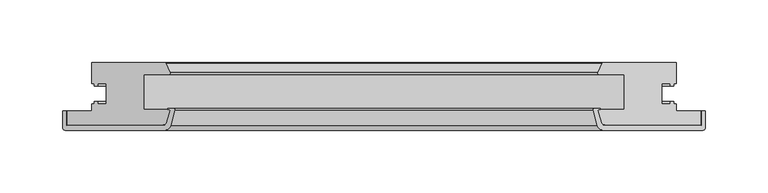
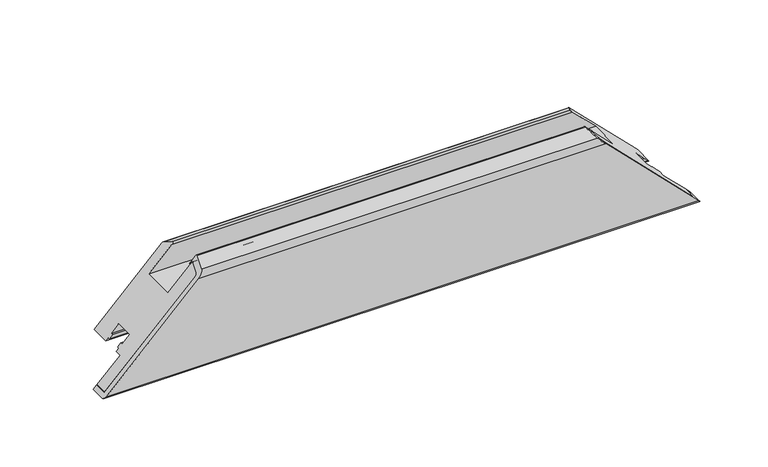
"""IFC4 building model written with IfcOpenShell, lengths in millimetres: proxy geometry, Weiku - Montante - Folha 02.2.01.018 : Weiku - Montante - Folha 02.2.01.018."""

from ifc_helpers import new_model, si_unit, frame, origin, place, context, project, spatial, polyline, ellipse_curve, source, transform, mapped, element, save
from ifc_brep_helpers import plane_surface, cylinder_surface, revolved_surface, advanced_brep


def generic_models_55713fe9(model_context):
    return source(origin(), model_context, "Body", "AdvancedBrep", [
        advanced_brep(
        [(253.0, -50.0, 0.0), (-253.0, -50.0, 0.0), (-175.9997332, -50.0, 77.0002668), (175.9997332, -50.0, 77.0002668), (-173.1019557, -47.7764571, 79.8980443), (173.1019557, -47.7764571, 79.8980443), (-170.5170371, -38.1294095, 82.4829629), (170.5170371, -38.1294095, 82.4829629), (-171.0, -37.5, 82.0), (171.0, -37.5, 82.0), (-171.8560102, -37.5, 81.1439898), (171.8560102, -37.5, 81.1439898), (-171.8560102, -36.5, 81.1439898), (171.8560102, -36.5, 81.1439898), (-167.2425588, -36.5, 85.7574412), (167.2425588, -36.5, 85.7574412), (-166.2766329, -37.758819, 86.7233671), (166.2766329, -37.758819, 86.7233671), (-169.6354501, -50.2940952, 83.3645499), (169.6354501, -50.2940952, 83.3645499), (-174.4650792, -54.0, 78.5349208), (174.4650792, -54.0, 78.5349208), (-254.0, -54.0, -1.0), (254.0, -54.0, -1.0), (-256.0, -52.0, -3.0), (256.0, -52.0, -3.0), (-256.0, -38.5, -3.0), (256.0, -38.5, -3.0), (-253.0, -38.5, 0.0), (253.0, -38.5, 0.0)],
        [
            (0, 1),
            (1, 2),
            (2, 3),
            (3, 0),
            (2, 4, ellipse_curve(frame((-175.9997332, -47.0, 77.0002668), z_axis=(-0.7071067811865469, 0.0, 0.7071067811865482), x_axis=(0.707106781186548, 0.0, 0.7071067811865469)), 4.2426407, 3.0)),
            (4, 5),
            (5, 3, ellipse_curve(frame((175.9997332, -47.0, 77.0002668), z_axis=(0.707106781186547, 0.0, 0.7071067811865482), x_axis=(0.7071067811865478, 0.0, -0.707106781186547)), 4.2426407, 3.0)),
            (4, 6),
            (6, 7),
            (7, 5),
            (6, 8, ellipse_curve(frame((-171.0, -38.0, 82.0), z_axis=(-0.7071067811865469, 0.0, 0.7071067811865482), x_axis=(0.707106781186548, 0.0, 0.7071067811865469)), 0.7071068, 0.5)),
            (8, 9),
            (9, 7, ellipse_curve(frame((171.0, -38.0, 82.0), z_axis=(0.707106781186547, 0.0, 0.7071067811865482), x_axis=(0.7071067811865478, 0.0, -0.707106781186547)), 0.7071068, 0.5)),
            (8, 10),
            (10, 11),
            (11, 9),
            (10, 12, ellipse_curve(frame((-171.8560102, -37.0, 81.1439898), z_axis=(0.7071067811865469, 0.0, -0.7071067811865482), x_axis=(-0.707106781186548, 0.0, -0.7071067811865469)), 0.7071068, 0.5)),
            (12, 13),
            (13, 11, ellipse_curve(frame((171.8560102, -37.0, 81.1439898), z_axis=(-0.707106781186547, 0.0, -0.7071067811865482), x_axis=(-0.7071067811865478, 0.0, 0.707106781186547)), 0.7071068, 0.5)),
            (12, 14),
            (14, 15),
            (15, 13),
            (14, 16, ellipse_curve(frame((-167.2425588, -37.5, 85.7574412), z_axis=(0.7071067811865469, 0.0, -0.7071067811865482), x_axis=(-0.707106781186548, 0.0, -0.7071067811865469)), 1.4142136, 1.0)),
            (16, 17),
            (17, 15, ellipse_curve(frame((167.2425588, -37.5, 85.7574412), z_axis=(-0.707106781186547, 0.0, -0.7071067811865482), x_axis=(-0.7071067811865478, 0.0, 0.707106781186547)), 1.4142136, 1.0)),
            (16, 18),
            (18, 19),
            (19, 17),
            (18, 20, ellipse_curve(frame((-174.4650792, -49.0, 78.5349208), z_axis=(0.7071067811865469, 0.0, -0.7071067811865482), x_axis=(-0.707106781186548, 0.0, -0.7071067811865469)), 7.0710678, 5.0)),
            (20, 21),
            (21, 19, ellipse_curve(frame((174.4650792, -49.0, 78.5349208), z_axis=(-0.707106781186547, 0.0, -0.7071067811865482), x_axis=(-0.7071067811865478, 0.0, 0.707106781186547)), 7.0710678, 5.0)),
            (20, 22),
            (22, 23),
            (23, 21),
            (22, 24, ellipse_curve(frame((-254.0, -52.0, -1.0), z_axis=(0.7071067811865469, 0.0, -0.7071067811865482), x_axis=(-0.707106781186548, 0.0, -0.7071067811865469)), 2.8284271, 2.0)),
            (24, 25),
            (25, 23, ellipse_curve(frame((254.0, -52.0, -1.0), z_axis=(-0.707106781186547, 0.0, -0.7071067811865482), x_axis=(-0.7071067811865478, 0.0, 0.707106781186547)), 2.8284271, 2.0)),
            (24, 26),
            (26, 27),
            (27, 25),
            (26, 28),
            (28, 29),
            (29, 27),
            (28, 1),
            (0, 29),
        ],
        [
            plane_surface(frame((-273.0, -50.0, 0.0), z_axis=(0.0, 1.0, 0.0), x_axis=(1.0, 0.0, 0.0))),
            revolved_surface(polyline([(178.99973320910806, -50.0, 77.0002668), (-178.99973320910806, -50.0, 77.0002668)]), (-273.0, -47.0, 77.0002668), (1.0, 0.0, 0.0)),
            plane_surface(frame((-273.0, -47.7764571, 79.8980443), z_axis=(0.0, 0.2588190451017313, -0.9659258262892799), x_axis=(1.0, 0.0, 0.0))),
            revolved_surface(polyline([(171.50000001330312, -38.5, 82.0), (-171.50000001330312, -38.5, 82.0)]), (-273.0, -38.0, 82.0), (1.0, 0.0, 0.0)),
            plane_surface(frame((-273.0, -37.5, 82.0), z_axis=(0.0, -1.0, 0.0), x_axis=(1.0, 0.0, 0.0))),
            cylinder_surface(frame((-273.0, -37.0, 81.1439898), z_axis=(-1.0, 0.0, 0.0), x_axis=(0.0, -1.0, 0.0)), 0.5),
            plane_surface(frame((-273.0, -36.5, 81.1439898), z_axis=(0.0, 1.0, 0.0), x_axis=(1.0, 0.0, 0.0))),
            cylinder_surface(frame((-273.0, -37.5, 85.7574412), z_axis=(-1.0, 0.0, 0.0), x_axis=(0.0, -1.0, 0.0)), 1.0),
            plane_surface(frame((-273.0, -37.758819, 86.7233671), z_axis=(0.0, -0.25881904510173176, 0.9659258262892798), x_axis=(1.0, 0.0, 0.0))),
            cylinder_surface(frame((-273.0, -49.0, 78.5349208), z_axis=(-1.0, 0.0, 0.0), x_axis=(0.0, -1.0, 0.0)), 5.0),
            plane_surface(frame((-273.0, -54.0, 78.5349208), z_axis=(0.0, -1.0, 0.0), x_axis=(1.0, 0.0, 0.0))),
            cylinder_surface(frame((-273.0, -52.0, -1.0), z_axis=(-1.0, 0.0, 0.0), x_axis=(0.0, -1.0, 0.0)), 2.0),
            plane_surface(frame((-273.0, -52.0, -3.0), z_axis=(0.0, 0.0, -1.0), x_axis=(1.0, 0.0, 0.0))),
            plane_surface(frame((-273.0, -38.5, -3.0), z_axis=(0.0, 1.0, 0.0), x_axis=(1.0, 0.0, 0.0))),
            plane_surface(frame((-273.0, -38.5, 0.0), z_axis=(0.0, 0.0, 1.0), x_axis=(1.0, 0.0, 0.0))),
            plane_surface(frame((163.0, 0.0, 90.0), z_axis=(0.707106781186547, 0.0, 0.7071067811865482), x_axis=(0.0, -1.0, 0.0))),
            plane_surface(frame((-281.2842712, 0.0, -28.2842712), z_axis=(-0.7071067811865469, 0.0, 0.7071067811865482), x_axis=(0.0, -1.0, 0.0))),
        ],
        [
            (0, [[1, 2, 3, 4]]),
            (1, [[-3, 5, 6, 7]]),
            (2, [[-6, 8, 9, 10]]),
            (3, [[-9, 11, 12, 13]]),
            (4, [[-12, 14, 15, 16]]),
            (5, [[-15, 17, 18, 19]]),
            (6, [[-18, 20, 21, 22]]),
            (7, [[-21, 23, 24, 25]]),
            (8, [[-24, 26, 27, 28]]),
            (9, [[-27, 29, 30, 31]]),
            (10, [[-30, 32, 33, 34]]),
            (11, [[-33, 35, 36, 37]]),
            (12, [[-36, 38, 39, 40]]),
            (13, [[-39, 41, 42, 43]]),
            (14, [[-42, 44, -1, 45]]),
            (15, [[-7, -10, -13, -16, -19, -22, -25, -28, -31, -34, -37, -40, -43, -45, -4]]),
            (16, [[-44, -41, -38, -35, -32, -29, -26, -23, -20, -17, -14, -11, -8, -5, -2]]),
        ],
    ),
        advanced_brep(
        [(253.0, -50.0, 0.0), (175.9997332, -50.0, 77.0002668), (-175.9997332, -50.0, 77.0002668), (-253.0, -50.0, 0.0), (-253.0, -38.5, 0.0), (253.0, -38.5, 0.0), (-174.9872264, 0.0, 78.0127736), (174.9872264, 0.0, 78.0127736), (233.0, 0.0, 20.0), (-233.0, 0.0, 20.0), (-173.1019557, -47.7764571, 79.8980443), (-170.5170371, -38.1294095, 82.4829629), (-171.0, -37.5, 82.0), (-191.5, -37.5, 61.5), (-191.5, -9.5, 61.5), (-171.7134285, -9.5, 81.2865715), (-170.5512796, -7.617411, 82.4487204), (-174.0932657, -0.5518546, 78.9067343), (-233.0, -16.9, 20.0), (-230.8, -16.9, 22.2), (-230.8, -18.9, 22.2), (-228.0, -18.9, 25.0), (-228.0, -16.9, 25.0), (-221.5, -16.9, 31.5), (-221.5, -33.1, 31.5), (-228.0, -33.1, 25.0), (-228.0, -31.1, 25.0), (-230.8, -31.1, 22.2), (-230.8, -33.1, 22.2), (-233.0, -33.1, 20.0), (-233.0, -38.5, 20.0), (233.0, -38.5, 20.0), (233.0, -33.1, 20.0), (230.8, -33.1, 22.2), (230.8, -31.1, 22.2), (228.0, -31.1, 25.0), (228.0, -33.1, 25.0), (221.5, -33.1, 31.5), (221.5, -16.9, 31.5), (228.0, -16.9, 25.0), (228.0, -18.9, 25.0), (230.8, -18.9, 22.2), (230.8, -16.9, 22.2), (233.0, -16.9, 20.0), (174.0932657, -0.5518546, 78.9067343), (170.5512796, -7.617411, 82.4487204), (171.7134285, -9.5, 81.2865715), (191.5, -9.5, 61.5), (191.5, -37.5, 61.5), (171.0, -37.5, 82.0), (170.5170371, -38.1294095, 82.4829629), (173.1019557, -47.7764571, 79.8980443)],
        [
            (0, 1),
            (1, 2),
            (2, 3),
            (3, 0),
            (3, 4),
            (4, 5),
            (5, 0),
            (6, 7),
            (7, 8),
            (8, 9),
            (9, 6),
            (2, 10, ellipse_curve(frame((-175.9997332, -47.0, 77.0002668), z_axis=(-0.7071067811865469, 0.0, 0.7071067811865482), x_axis=(-0.707106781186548, 0.0, -0.7071067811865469)), 4.2426407, 3.0)),
            (10, 11),
            (11, 12, ellipse_curve(frame((-171.0, -38.0, 82.0), z_axis=(-0.7071067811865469, 0.0, 0.7071067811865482), x_axis=(-0.707106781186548, 0.0, -0.7071067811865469)), 0.7071068, 0.5)),
            (12, 13),
            (13, 14),
            (14, 15),
            (15, 16, ellipse_curve(frame((-171.7134285, -8.2, 81.2865715), z_axis=(-0.7071067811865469, 0.0, 0.7071067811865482), x_axis=(-0.707106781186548, 0.0, -0.7071067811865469)), 1.8384776, 1.3)),
            (16, 17),
            (17, 6, ellipse_curve(frame((-174.9872264, -1.0, 78.0127736), z_axis=(-0.7071067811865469, 0.0, 0.7071067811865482), x_axis=(-0.707106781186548, 0.0, -0.7071067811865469)), 1.4142136, 1.0)),
            (9, 18),
            (18, 19),
            (19, 20),
            (20, 21),
            (21, 22),
            (22, 23),
            (23, 24),
            (24, 25),
            (25, 26),
            (26, 27),
            (27, 28),
            (28, 29),
            (29, 30),
            (30, 4),
            (5, 31),
            (31, 32),
            (32, 33),
            (33, 34),
            (34, 35),
            (35, 36),
            (36, 37),
            (37, 38),
            (38, 39),
            (39, 40),
            (40, 41),
            (41, 42),
            (42, 43),
            (43, 8),
            (7, 44, ellipse_curve(frame((174.9872264, -1.0, 78.0127736), z_axis=(0.707106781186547, 0.0, 0.7071067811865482), x_axis=(-0.7071067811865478, 0.0, 0.707106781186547)), 1.4142136, 1.0)),
            (44, 45),
            (45, 46, ellipse_curve(frame((171.7134285, -8.2, 81.2865715), z_axis=(0.707106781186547, 0.0, 0.7071067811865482), x_axis=(-0.7071067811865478, 0.0, 0.707106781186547)), 1.8384776, 1.3)),
            (46, 47),
            (47, 48),
            (48, 49),
            (49, 50, ellipse_curve(frame((171.0, -38.0, 82.0), z_axis=(0.707106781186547, 0.0, 0.7071067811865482), x_axis=(-0.7071067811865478, 0.0, 0.707106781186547)), 0.7071068, 0.5)),
            (50, 51),
            (51, 1, ellipse_curve(frame((175.9997332, -47.0, 77.0002668), z_axis=(0.707106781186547, 0.0, 0.7071067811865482), x_axis=(-0.7071067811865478, 0.0, 0.707106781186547)), 4.2426407, 3.0)),
            (17, 44),
            (16, 45),
            (15, 46),
            (14, 47),
            (13, 48),
            (12, 49),
            (11, 50),
            (10, 51),
            (30, 31),
            (29, 32),
            (28, 33),
            (27, 34),
            (26, 35),
            (25, 36),
            (24, 37),
            (23, 38),
            (22, 39),
            (21, 40),
            (20, 41),
            (19, 42),
            (18, 43),
        ],
        [
            plane_surface(frame((-253.0, -50.0, 77.0002668), z_axis=(0.0, -1.0, 0.0), x_axis=(1.0, 0.0, 0.0))),
            plane_surface(frame((-253.0, -50.0, 0.0), z_axis=(0.0, 0.0, -1.0), x_axis=(1.0, 0.0, 0.0))),
            plane_surface(frame((-253.0, 0.0, 20.0), z_axis=(0.0, 1.0, 0.0), x_axis=(1.0, 0.0, 0.0))),
            plane_surface(frame((-281.2842712, 0.0, -28.2842712), z_axis=(-0.7071067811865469, 0.0, 0.7071067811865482), x_axis=(0.0, -1.0, 0.0))),
            plane_surface(frame((163.0, 0.0, 90.0), z_axis=(0.707106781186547, 0.0, 0.7071067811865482), x_axis=(0.0, -1.0, 0.0))),
            cylinder_surface(frame((-253.0, -1.0, 78.0127736), z_axis=(-1.0, 0.0, 0.0), x_axis=(0.0, -1.0, 0.0)), 1.0),
            plane_surface(frame((-253.0, -0.5518546, 78.9067343), z_axis=(0.0, 0.4481453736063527, 0.8939606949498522), x_axis=(1.0, 0.0, 0.0))),
            cylinder_surface(frame((-253.0, -8.2, 81.2865715), z_axis=(-1.0, 0.0, 0.0), x_axis=(0.0, -1.0, 0.0)), 1.3),
            plane_surface(frame((-253.0, -9.5, 81.2865715), z_axis=(0.0, -1.0, 0.0), x_axis=(1.0, 0.0, 0.0))),
            plane_surface(frame((-253.0, -9.5, 61.5), z_axis=(0.0, 0.0, 1.0), x_axis=(1.0, 0.0, 0.0))),
            plane_surface(frame((-253.0, -37.5, 61.5), z_axis=(0.0, 1.0, 0.0), x_axis=(1.0, 0.0, 0.0))),
            cylinder_surface(frame((-253.0, -38.0, 82.0), z_axis=(-1.0, 0.0, 0.0), x_axis=(0.0, -1.0, 0.0)), 0.5),
            plane_surface(frame((-253.0, -38.1294095, 82.4829629), z_axis=(0.0, -0.2588190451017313, 0.9659258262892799), x_axis=(1.0, 0.0, 0.0))),
            cylinder_surface(frame((-253.0, -47.0, 77.0002668), z_axis=(-1.0, 0.0, 0.0), x_axis=(0.0, -1.0, 0.0)), 3.0),
            plane_surface(frame((-253.0, -38.5, 0.0), z_axis=(0.0, 1.0, 0.0), x_axis=(1.0, 0.0, 0.0))),
            plane_surface(frame((-253.0, -38.5, 20.0), z_axis=(0.0, 0.0, -1.0), x_axis=(1.0, 0.0, 0.0))),
            plane_surface(frame((-253.0, -33.1, 20.0), z_axis=(0.0, 1.0, 0.0), x_axis=(1.0, 0.0, 0.0))),
            plane_surface(frame((-253.0, -33.1, 22.2), z_axis=(0.0, 0.0, -1.0), x_axis=(1.0, 0.0, 0.0))),
            plane_surface(frame((-253.0, -31.1, 22.2), z_axis=(0.0, 1.0, 0.0), x_axis=(1.0, 0.0, 0.0))),
            plane_surface(frame((-253.0, -31.1, 25.0), z_axis=(0.0, 0.0, 1.0), x_axis=(1.0, 0.0, 0.0))),
            plane_surface(frame((-253.0, -33.1, 25.0), z_axis=(0.0, 1.0, 0.0), x_axis=(1.0, 0.0, 0.0))),
            plane_surface(frame((-253.0, -33.1, 31.5), z_axis=(0.0, 0.0, -1.0), x_axis=(1.0, 0.0, 0.0))),
            plane_surface(frame((-253.0, -16.9, 31.5), z_axis=(0.0, -1.0, 0.0), x_axis=(1.0, 0.0, 0.0))),
            plane_surface(frame((-253.0, -16.9, 25.0), z_axis=(0.0, 0.0, 1.0), x_axis=(1.0, 0.0, 0.0))),
            plane_surface(frame((-253.0, -18.9, 25.0), z_axis=(0.0, -1.0, 0.0), x_axis=(1.0, 0.0, 0.0))),
            plane_surface(frame((-253.0, -18.9, 22.2), z_axis=(0.0, 0.0, -1.0), x_axis=(1.0, 0.0, 0.0))),
            plane_surface(frame((-253.0, -16.9, 22.2), z_axis=(0.0, -1.0, 0.0), x_axis=(1.0, 0.0, 0.0))),
            plane_surface(frame((-253.0, -16.9, 20.0), z_axis=(0.0, 0.0, -1.0), x_axis=(1.0, 0.0, 0.0))),
        ],
        [
            (0, [[1, 2, 3, 4]]),
            (1, [[5, 6, 7, -4]]),
            (2, [[8, 9, 10, 11]]),
            (3, [[12, 13, 14, 15, 16, 17, 18, 19, 20, -11, 21, 22, 23, 24, 25, 26, 27, 28, 29, 30, 31, 32, 33, 34, -5, -3]]),
            (4, [[-7, 35, 36, 37, 38, 39, 40, 41, 42, 43, 44, 45, 46, 47, 48, -9, 49, 50, 51, 52, 53, 54, 55, 56, 57, -1]]),
            (5, [[58, -49, -8, -20]]),
            (6, [[59, -50, -58, -19]]),
            (7, [[60, -51, -59, -18]]),
            (8, [[61, -52, -60, -17]]),
            (9, [[62, -53, -61, -16]]),
            (10, [[63, -54, -62, -15]]),
            (11, [[64, -55, -63, -14]]),
            (12, [[65, -56, -64, -13]]),
            (13, [[-2, -57, -65, -12]]),
            (14, [[-34, 66, -35, -6]]),
            (15, [[67, -36, -66, -33]]),
            (16, [[68, -37, -67, -32]]),
            (17, [[69, -38, -68, -31]]),
            (18, [[70, -39, -69, -30]]),
            (19, [[71, -40, -70, -29]]),
            (20, [[72, -41, -71, -28]]),
            (21, [[73, -42, -72, -27]]),
            (22, [[74, -43, -73, -26]]),
            (23, [[75, -44, -74, -25]]),
            (24, [[76, -45, -75, -24]]),
            (25, [[77, -46, -76, -23]]),
            (26, [[78, -47, -77, -22]]),
            (27, [[-10, -48, -78, -21]]),
        ],
    ),
    ])


if __name__ == "__main__":
    model = new_model("IFC4")
    model_context = context("Model", 3, world=origin())
    ifc_project = project(units=[si_unit("LENGTHUNIT", "METRE", prefix="MILLI")], contexts=[model_context])
    site = spatial("IfcSite", under=ifc_project)
    building = spatial("IfcBuilding", under=site)
    placement = place(None, origin())
    generic_models_shape = generic_models_55713fe9(model_context)
    element("IfcBuildingElementProxy", 1, Name="Weiku - Montante - Folha 02.2.01.018 : Weiku - Montante - Folha 02.2.01.018", ObjectType="Weiku - Montante - Folha 02.2.01.018 : Weiku - Montante - Folha 02.2.01.018", at=placement, inside=building, context=model_context, shape_type="MappedRepresentation", body=[
        mapped(generic_models_shape, transform((0.0, 0.0, 0.0), x_axis=(1.0, 0.0, 0.0), y_axis=(0.0, 1.0, 0.0), z_axis=(0.0, 0.0, 1.0))),
    ])
    save(model, "model.ifc")
